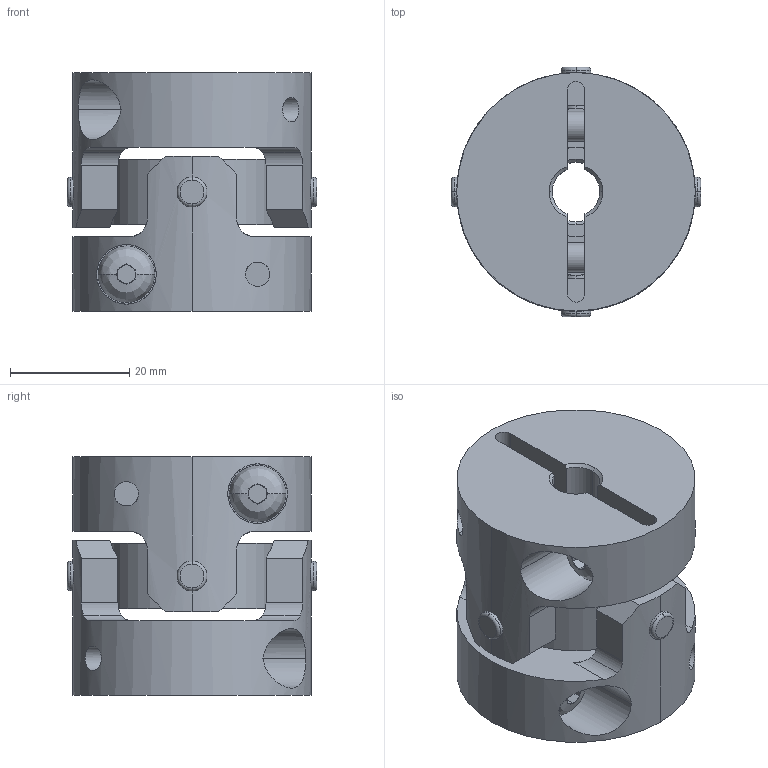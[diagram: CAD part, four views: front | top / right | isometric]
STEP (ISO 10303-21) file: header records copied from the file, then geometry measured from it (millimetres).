
FILE_DESCRIPTION((''),'2;1');
FILE_NAME('UA-40C-8×10.stp','2013-05-22T09:22:38',(''),(''),'AutoCAD STEP 2000i','AutoCAD 2000i',', , ');
FILE_SCHEMA(('CONFIG_CONTROL_DESIGN'));
Length unit declared in the file: millimetre
Products named in the file (6): UA-40C-8×8; 忣兜1; UA-4002-D08-1; BTN-M5; UA-4002-D08; UA40-SEN
Assembly tree (6 placements, depth 3):
  UA-40C-8×8
    忣兜1
    UA-4002-D08-1
      BTN-M5
    UA-4002-D08
      BTN-M5
    UA40-SEN
Bounding box: 41.81 x 41.81 x 40 mm (x, y, z)
Volume: 34940.1 mm3; surface area: 15675 mm2
Topology: 1 solids, 1 shells, 250 faces, 646 edges, 408 vertices
Faces by surface type: plane 122, cylinder 96, cone 16, bspline 8, torus 8
Entity records: 9627 total; most frequent: CARTESIAN_POINT 3371, ORIENTED_EDGE 1292, DIRECTION 1288, EDGE_CURVE 646, AXIS2_PLACEMENT_3D 497, VERTEX_POINT 408, VECTOR 294, LINE 294
